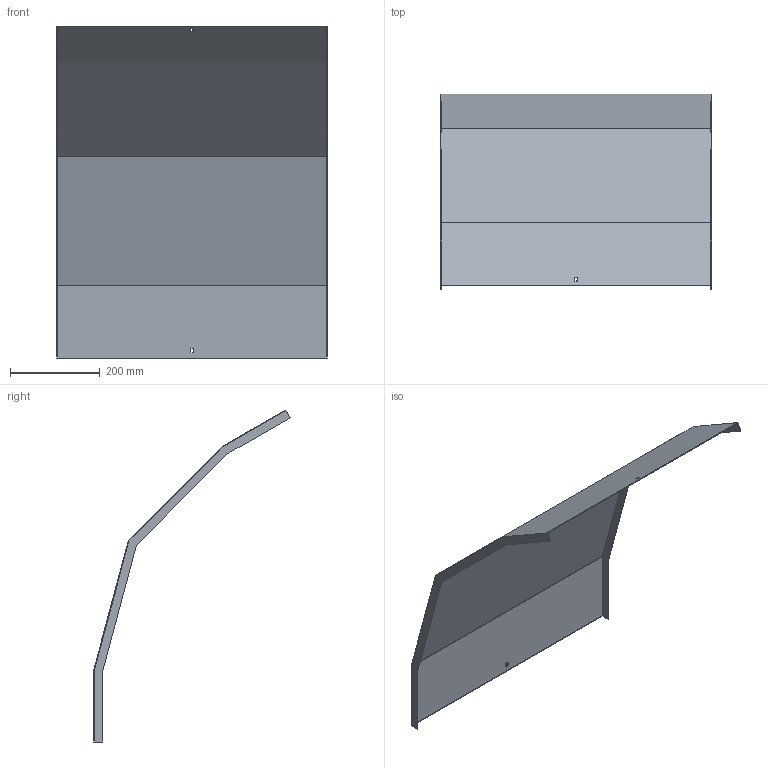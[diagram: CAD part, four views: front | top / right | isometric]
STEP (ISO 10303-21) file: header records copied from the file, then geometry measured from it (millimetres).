
FILE_DESCRIPTION (( 'STEP AP214' ), '1' );
FILE_NAME ('41N5C600.step', '2025-02-21T10:37:44', ( '' ), ( '' ), 'SwSTEP 2.0', 'SolidWorks 2023', '' );
FILE_SCHEMA (( 'AUTOMOTIVE_DESIGN' ));
Length unit declared in the file: millimetre
Products named in the file (1): 41N5C600
Bounding box: 603 x 437.72 x 740.83 mm (x, y, z)
Volume: 880950 mm3; surface area: 1179309.3 mm2
Topology: 1 solids, 1 shells, 30 faces, 84 edges, 56 vertices
Faces by surface type: plane 30
Entity records: 979 total; most frequent: CARTESIAN_POINT 171, ORIENTED_EDGE 168, DIRECTION 146, EDGE_CURVE 84, LINE 84, VECTOR 84, VERTEX_POINT 56, EDGE_LOOP 34
